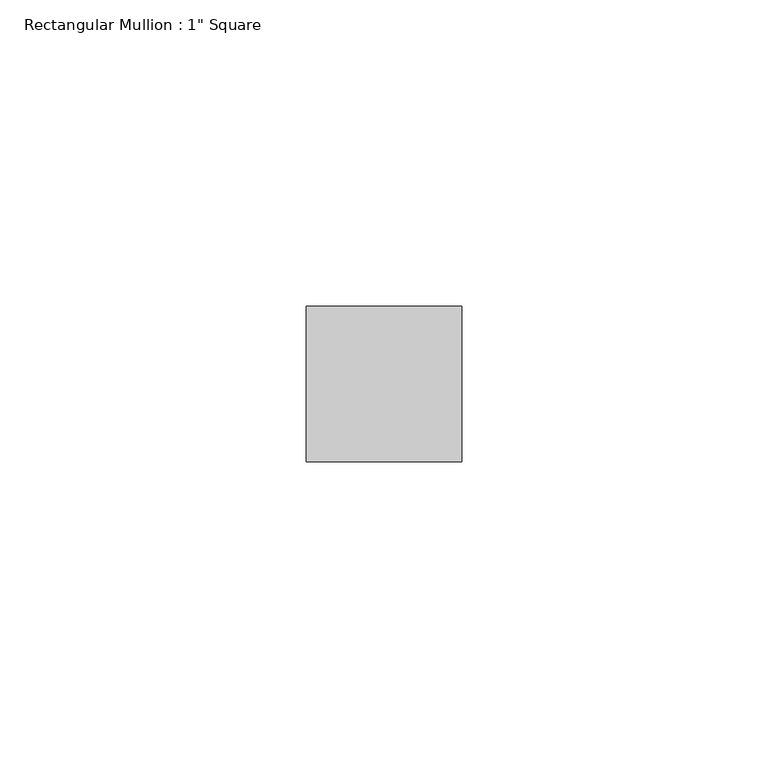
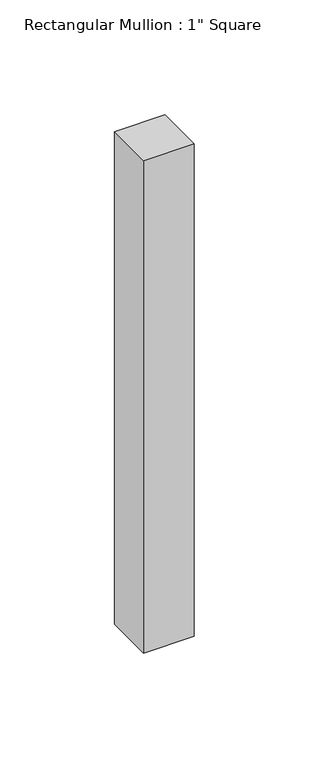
"""IFC4 building model written with IfcOpenShell, lengths in millimetres: member geometry."""

from ifc_helpers import new_model, si_unit, frame, origin, place, context, project, spatial, polyline, outline, extrude, source, transform, mapped, element, save


def member_ecc72e92(model_context):
    return source(origin(), model_context, "Body", "SweptSolid", [
        extrude(outline(polyline([(12.7, 12.7), (12.7, -12.7), (-12.7, -12.7), (-12.7, 12.7), (12.7, 12.7)])), frame((0.0, 0.0, -261.9), z_axis=(0.0, 0.0, 1.0), x_axis=(1.0, 0.0, 0.0)), (0.0, 0.0, 1.0), 261.9),
    ])


if __name__ == "__main__":
    model = new_model("IFC4")
    model_context = context("Model", 3, world=origin())
    ifc_project = project(units=[si_unit("LENGTHUNIT", "METRE", prefix="MILLI")], contexts=[model_context])
    site = spatial("IfcSite", under=ifc_project)
    building = spatial("IfcBuilding", under=site)
    placement = place(None, origin())
    member_shape = member_ecc72e92(model_context)
    element("IfcMember", 1, ObjectType="Rectangular Mullion : 1\" Square", at=placement, inside=building, context=model_context, shape_type="MappedRepresentation", body=[
        mapped(member_shape, transform((0.0, 0.0, 0.0), x_axis=(1.0, 0.0, 0.0), y_axis=(0.0, 1.0, 0.0), z_axis=(0.0, 0.0, 1.0))),
    ])
    save(model, "model.ifc")
